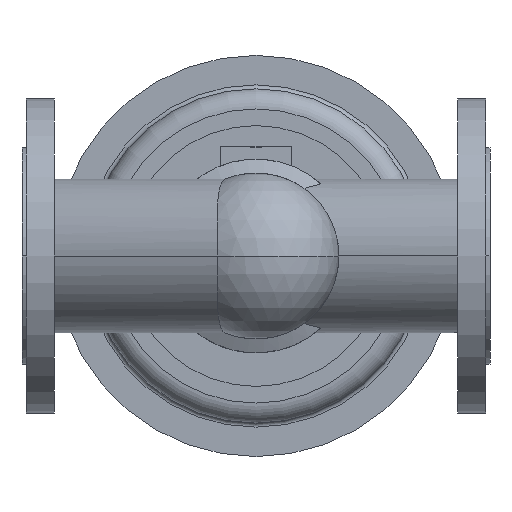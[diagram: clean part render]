
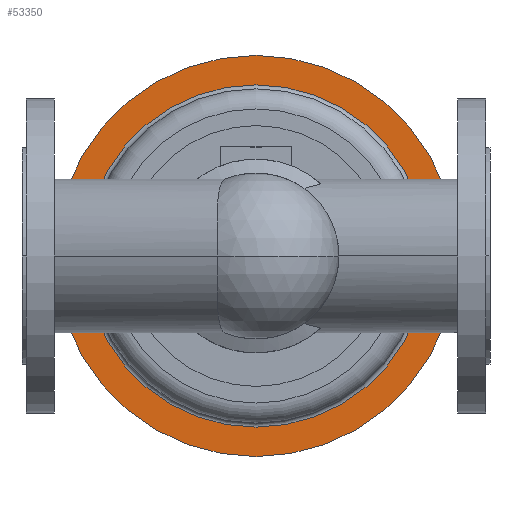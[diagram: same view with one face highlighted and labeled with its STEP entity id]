
A CAD part, front view. The second image highlights one B-rep face of the part: STEP entity #53350.
In plain terms, the highlighted planar face has unit normal (0, -1, 0).
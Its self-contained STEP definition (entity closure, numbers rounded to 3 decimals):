
#52750=CARTESIAN_POINT('',(175.,707.,0.));
#52760=DIRECTION('',(0.,1.,0.));
#52770=DIRECTION('',(1.,0.,0.));
#52780=AXIS2_PLACEMENT_3D('',#52750,#52760,#52770);
#52790=CIRCLE('',#52780,128.);
#52800=CARTESIAN_POINT('',(175.,707.,-128.));
#52810=VERTEX_POINT('',#52800);
#52820=CARTESIAN_POINT('',(47.,707.,0.));
#52830=VERTEX_POINT('',#52820);
#52840=EDGE_CURVE('',#52810,#52830,#52790,.T.);
#53000=CARTESIAN_POINT('',(303.,707.,0.));
#53010=VERTEX_POINT('',#53000);
#53040=EDGE_CURVE('',#53010,#52810,#52790,.T.);
#53090=CARTESIAN_POINT('',(314.,707.,0.));
#53100=DIRECTION('',(0.,-1.,0.));
#53110=DIRECTION('',(-1.,0.,0.));
#53120=AXIS2_PLACEMENT_3D('',#53090,#53100,#53110);
#53130=PLANE('',#53120);
#53140=CARTESIAN_POINT('',(175.,707.,0.));
#53150=DIRECTION('',(0.,1.,0.));
#53160=DIRECTION('',(1.,0.,0.));
#53170=AXIS2_PLACEMENT_3D('',#53140,#53150,#53160);
#53180=CIRCLE('',#53170,150.);
#53190=CARTESIAN_POINT('',(25.,707.,0.));
#53200=VERTEX_POINT('',#53190);
#53210=CARTESIAN_POINT('',(325.,707.,0.));
#53220=VERTEX_POINT('',#53210);
#53230=EDGE_CURVE('',#53200,#53220,#53180,.T.);
#53240=ORIENTED_EDGE('',*,*,#53230,.F.);
#53250=EDGE_CURVE('',#53220,#53200,#53180,.T.);
#53260=ORIENTED_EDGE('',*,*,#53250,.F.);
#53270=EDGE_LOOP('',(#53260,#53240));
#53280=FACE_OUTER_BOUND('',#53270,.T.);
#53290=EDGE_CURVE('',#52830,#53010,#52790,.T.);
#53300=ORIENTED_EDGE('',*,*,#53290,.T.);
#53310=ORIENTED_EDGE('',*,*,#52840,.T.);
#53320=ORIENTED_EDGE('',*,*,#53040,.T.);
#53330=EDGE_LOOP('',(#53320,#53310,#53300));
#53340=FACE_BOUND('',#53330,.T.);
#53350=ADVANCED_FACE('',(#53280,#53340),#53130,.T.);
